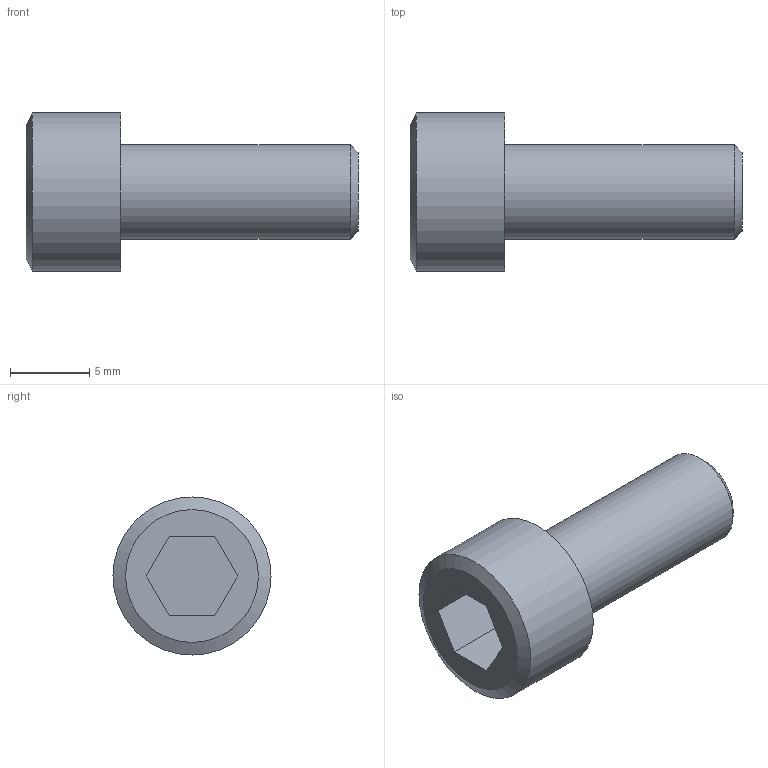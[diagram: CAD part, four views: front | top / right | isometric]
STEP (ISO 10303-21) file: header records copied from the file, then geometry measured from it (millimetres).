
FILE_DESCRIPTION( ( 'STEP AP203' ), '1' );
FILE_NAME( 'C:/CS-06.stp', '2013-10-20T23:44:39', ( ' ' ), ( ' ' ), 'XStep 1.0', ' ', ' ' );
FILE_SCHEMA( ( 'CONFIG_CONTROL_DESIGN' ) );
Length unit declared in the file: metre
Products named in the file (1): 1
Bounding box: 21 x 10 x 10 mm (x, y, z)
Volume: 810.1 mm3; surface area: 683.2 mm2
Topology: 1 solids, 1 shells, 14 faces, 28 edges, 18 vertices
Faces by surface type: bspline 14
Entity records: 450 total; most frequent: CARTESIAN_POINT 175, ORIENTED_EDGE 48, DIRECTION 28, EDGE_CURVE 24, EDGE_LOOP 20, FACE_OUTER_BOUND 18, VERTEX_POINT 18, ADVANCED_FACE 14
